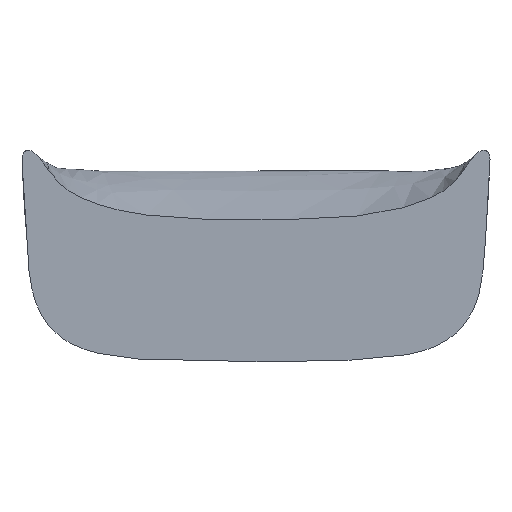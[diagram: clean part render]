
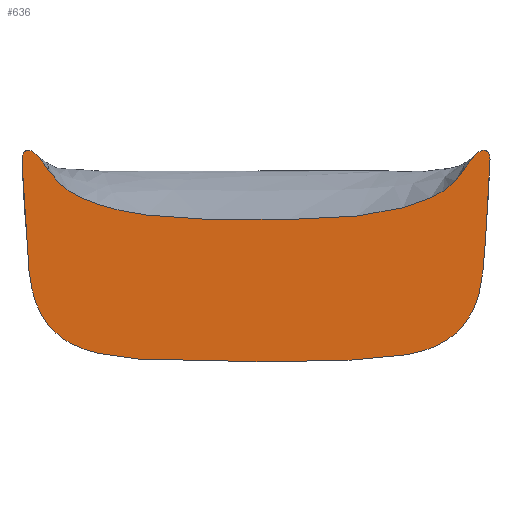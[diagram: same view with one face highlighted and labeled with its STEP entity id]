
A CAD part, front view. The second image highlights one B-rep face of the part: STEP entity #636.
In plain terms, the highlighted planar face has unit normal (0, -1, 0).
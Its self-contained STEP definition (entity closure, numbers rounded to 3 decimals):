
#56=FACE_OUTER_BOUND('',#98,.T.);
#98=EDGE_LOOP('',(#421,#422,#423,#424,#425));
#140=B_SPLINE_CURVE_WITH_KNOTS('',3,(#710,#711,#712,#713,#714,#715,#716,
#717,#718,#719,#720,#721,#722),.UNSPECIFIED.,.F.,.F.,(4,1,1,1,1,1,1,1,1,
1,4),(0.,0.08,0.159,0.318,0.477,
0.636,0.781,0.94,1.099,
1.258,1.417),.UNSPECIFIED.);
#141=B_SPLINE_CURVE_WITH_KNOTS('',3,(#724,#725,#726,#727,#728,#729,#730,
#731,#732,#733,#734,#735,#736),.UNSPECIFIED.,.F.,.F.,(4,1,1,1,1,1,1,1,1,
1,4),(0.,0.075,0.15,0.219,0.287,
0.362,0.423,0.484,0.559,
0.634,0.71),.UNSPECIFIED.);
#142=B_SPLINE_CURVE_WITH_KNOTS('',3,(#738,#739,#740,#741,#742,#743,#744,
#745),.UNSPECIFIED.,.F.,.F.,(4,1,1,1,1,4),(0.,0.065,0.087,
0.277,0.467,0.658),.UNSPECIFIED.);
#143=B_SPLINE_CURVE_WITH_KNOTS('',3,(#747,#748,#749,#750,#751,#752,#753),
 .UNSPECIFIED.,.F.,.F.,(4,1,1,1,4),(0.,0.19,0.38,
0.57,0.656),.UNSPECIFIED.);
#144=B_SPLINE_CURVE_WITH_KNOTS('',3,(#754,#755,#756,#757,#758,#759,#760,
#761,#762,#763,#764,#765,#766,#767),.UNSPECIFIED.,.F.,.F.,(4,1,1,1,1,1,
1,1,1,1,1,4),(0.,0.038,0.076,0.151,
0.227,0.288,0.35,0.426,
0.494,0.563,0.639,0.714),
 .UNSPECIFIED.);
#247=VERTEX_POINT('',#708);
#248=VERTEX_POINT('',#709);
#249=VERTEX_POINT('',#723);
#250=VERTEX_POINT('',#737);
#251=VERTEX_POINT('',#746);
#314=EDGE_CURVE('',#247,#248,#140,.T.);
#315=EDGE_CURVE('',#249,#247,#141,.T.);
#316=EDGE_CURVE('',#250,#249,#142,.T.);
#317=EDGE_CURVE('',#251,#250,#143,.T.);
#318=EDGE_CURVE('',#248,#251,#144,.T.);
#421=ORIENTED_EDGE('',*,*,#314,.F.);
#422=ORIENTED_EDGE('',*,*,#315,.F.);
#423=ORIENTED_EDGE('',*,*,#316,.F.);
#424=ORIENTED_EDGE('',*,*,#317,.F.);
#425=ORIENTED_EDGE('',*,*,#318,.F.);
#635=PLANE('',#701);
#636=ADVANCED_FACE('',(#56),#635,.F.);
#701=AXIS2_PLACEMENT_3D('',#707,#704,#705);
#704=DIRECTION('center_axis',(0.,1.,0.));
#705=DIRECTION('ref_axis',(0.,0.,1.));
#707=CARTESIAN_POINT('Origin',(0.,0.,437.901));
#708=CARTESIAN_POINT('',(-663.063,0.,709.898));
#709=CARTESIAN_POINT('',(663.063,0.,709.898));
#710=CARTESIAN_POINT('Ctrl Pts',(-663.063,0.,709.898));
#711=CARTESIAN_POINT('Ctrl Pts',(-655.765,0.,
699.826));
#712=CARTESIAN_POINT('Ctrl Pts',(-640.891,0.,
681.098));
#713=CARTESIAN_POINT('Ctrl Pts',(-607.939,0.,
648.715));
#714=CARTESIAN_POINT('Ctrl Pts',(-556.814,0.,
616.626));
#715=CARTESIAN_POINT('Ctrl Pts',(-405.981,0.,
568.518));
#716=CARTESIAN_POINT('Ctrl Pts',(-187.274,0.,
551.6));
#717=CARTESIAN_POINT('Ctrl Pts',(187.274,0.,
551.6));
#718=CARTESIAN_POINT('Ctrl Pts',(405.981,0.,
568.518));
#719=CARTESIAN_POINT('Ctrl Pts',(556.814,0.,
616.626));
#720=CARTESIAN_POINT('Ctrl Pts',(618.164,0.,
655.132));
#721=CARTESIAN_POINT('Ctrl Pts',(648.467,0.,
689.754));
#722=CARTESIAN_POINT('Ctrl Pts',(663.063,0.,
709.898));
#723=CARTESIAN_POINT('',(-639.545,0.,190.229));
#724=CARTESIAN_POINT('Ctrl Pts',(-639.545,0.,190.229));
#725=CARTESIAN_POINT('Ctrl Pts',(-670.08,0.,
218.147));
#726=CARTESIAN_POINT('Ctrl Pts',(-718.134,0.,
292.328));
#727=CARTESIAN_POINT('Ctrl Pts',(-731.858,0.,
450.508));
#728=CARTESIAN_POINT('Ctrl Pts',(-736.729,0.,
541.809));
#729=CARTESIAN_POINT('Ctrl Pts',(-742.718,0.,
636.568));
#730=CARTESIAN_POINT('Ctrl Pts',(-746.406,0.,
706.972));
#731=CARTESIAN_POINT('Ctrl Pts',(-747.054,0.,
719.353));
#732=CARTESIAN_POINT('Ctrl Pts',(-747.488,0.,
727.636));
#733=CARTESIAN_POINT('Ctrl Pts',(-749.985,0.,
776.955));
#734=CARTESIAN_POINT('Ctrl Pts',(-705.737,0.,
775.999));
#735=CARTESIAN_POINT('Ctrl Pts',(-677.658,0.,
730.043));
#736=CARTESIAN_POINT('Ctrl Pts',(-663.063,0.,709.898));
#737=CARTESIAN_POINT('',(0.,0.,98.846));
#738=CARTESIAN_POINT('Ctrl Pts',(0.,0.,98.846));
#739=CARTESIAN_POINT('Ctrl Pts',(-36.026,0.,
98.846));
#740=CARTESIAN_POINT('Ctrl Pts',(-84.061,0.,
98.973));
#741=CARTESIAN_POINT('Ctrl Pts',(-224.316,0.,
99.919));
#742=CARTESIAN_POINT('Ctrl Pts',(-364.067,0.,
103.217));
#743=CARTESIAN_POINT('Ctrl Pts',(-534.921,0.,
124.816));
#744=CARTESIAN_POINT('Ctrl Pts',(-609.009,0.,
162.31));
#745=CARTESIAN_POINT('Ctrl Pts',(-639.545,0.,190.229));
#746=CARTESIAN_POINT('',(639.545,0.,190.229));
#747=CARTESIAN_POINT('Ctrl Pts',(639.545,0.,190.229));
#748=CARTESIAN_POINT('Ctrl Pts',(609.009,0.,
162.31));
#749=CARTESIAN_POINT('Ctrl Pts',(534.921,0.,
124.816));
#750=CARTESIAN_POINT('Ctrl Pts',(364.067,0.,
103.217));
#751=CARTESIAN_POINT('Ctrl Pts',(201.783,0.,
99.387));
#752=CARTESIAN_POINT('Ctrl Pts',(48.035,0.,
98.846));
#753=CARTESIAN_POINT('Ctrl Pts',(0.,0.,98.846));
#754=CARTESIAN_POINT('Ctrl Pts',(663.063,0.,
709.898));
#755=CARTESIAN_POINT('Ctrl Pts',(670.361,0.,
719.971));
#756=CARTESIAN_POINT('Ctrl Pts',(684.678,0.,
741.532));
#757=CARTESIAN_POINT('Ctrl Pts',(713.112,0.,
776.158));
#758=CARTESIAN_POINT('Ctrl Pts',(749.985,0.,
776.955));
#759=CARTESIAN_POINT('Ctrl Pts',(747.488,0.,
727.636));
#760=CARTESIAN_POINT('Ctrl Pts',(747.054,0.,
719.353));
#761=CARTESIAN_POINT('Ctrl Pts',(746.406,0.,
706.972));
#762=CARTESIAN_POINT('Ctrl Pts',(742.718,0.,636.568));
#763=CARTESIAN_POINT('Ctrl Pts',(736.729,0.,
541.809));
#764=CARTESIAN_POINT('Ctrl Pts',(731.858,0.,450.508));
#765=CARTESIAN_POINT('Ctrl Pts',(718.134,0.,
292.328));
#766=CARTESIAN_POINT('Ctrl Pts',(670.08,0.,218.147));
#767=CARTESIAN_POINT('Ctrl Pts',(639.545,0.,190.229));
